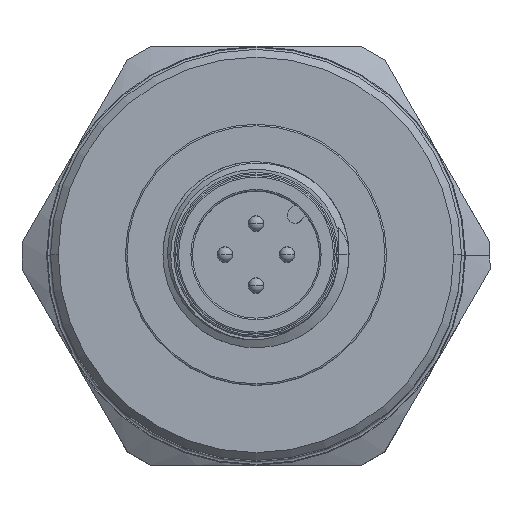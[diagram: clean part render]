
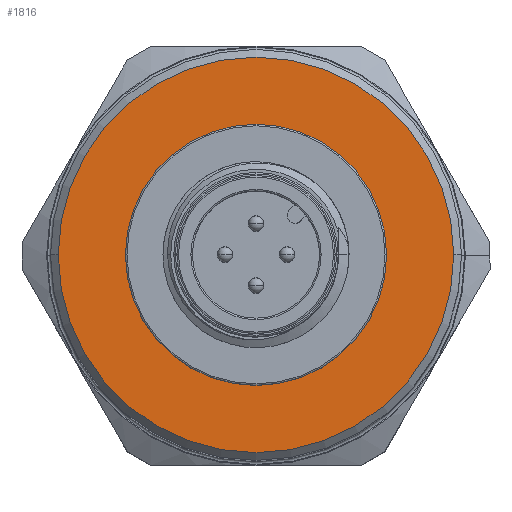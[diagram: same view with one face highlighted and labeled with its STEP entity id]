
A CAD part, top view. The second image highlights one B-rep face of the part: STEP entity #1816.
In plain terms, the highlighted planar face has unit normal (0, 0, 1).
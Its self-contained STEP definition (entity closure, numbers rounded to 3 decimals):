
#13 = FACE_BOUND ( 'NONE', #6906, .T. ) ;
#128 = PLANE ( 'NONE',  #7192 ) ;
#231 = DIRECTION ( 'NONE',  ( 0., 0., 1. ) ) ;
#994 = FACE_OUTER_BOUND ( 'NONE', #8181, .T. ) ;
#1364 = CARTESIAN_POINT ( 'NONE',  ( -12.75, 0., 45. ) ) ;
#1816 = ADVANCED_FACE ( 'NONE', ( #994, #13 ), #128, .T. ) ;
#2202 = DIRECTION ( 'NONE',  ( 0., 0., 1. ) ) ;
#2718 = DIRECTION ( 'NONE',  ( 1., 0., 0. ) ) ;
#3000 = CIRCLE ( 'NONE', #9442, 12.75 ) ;
#3119 = ORIENTED_EDGE ( 'NONE', *, *, #4336, .F. ) ;
#3566 = CARTESIAN_POINT ( 'NONE',  ( 0., 0., 45. ) ) ;
#3733 = VERTEX_POINT ( 'NONE', #6918 ) ;
#4192 = DIRECTION ( 'NONE',  ( 1., 0., 0. ) ) ;
#4336 = EDGE_CURVE ( 'NONE', #8838, #3733, #5465, .T. ) ;
#4420 = CIRCLE ( 'NONE', #4942, 12.75 ) ;
#4487 = DIRECTION ( 'NONE',  ( 1., 0., 0. ) ) ;
#4942 = AXIS2_PLACEMENT_3D ( 'NONE', #9685, #2202, #8856 ) ;
#5018 = EDGE_CURVE ( 'NONE', #3733, #8838, #6511, .T. ) ;
#5029 = VERTEX_POINT ( 'NONE', #1364 ) ;
#5218 = CARTESIAN_POINT ( 'NONE',  ( 8.42, 0., 45. ) ) ;
#5465 = CIRCLE ( 'NONE', #7038, 8.42 ) ;
#5893 = CARTESIAN_POINT ( 'NONE',  ( 0., 0., 45. ) ) ;
#6511 = CIRCLE ( 'NONE', #6689, 8.42 ) ;
#6689 = AXIS2_PLACEMENT_3D ( 'NONE', #8821, #7990, #7176 ) ;
#6708 = DIRECTION ( 'NONE',  ( 0., 0., 1. ) ) ;
#6906 = EDGE_LOOP ( 'NONE', ( #8773, #3119 ) ) ;
#6918 = CARTESIAN_POINT ( 'NONE',  ( -8.42, 0., 45. ) ) ;
#7038 = AXIS2_PLACEMENT_3D ( 'NONE', #3566, #8571, #4487 ) ;
#7176 = DIRECTION ( 'NONE',  ( 1., 0., 0. ) ) ;
#7192 = AXIS2_PLACEMENT_3D ( 'NONE', #8459, #231, #2718 ) ;
#7482 = VERTEX_POINT ( 'NONE', #7870 ) ;
#7870 = CARTESIAN_POINT ( 'NONE',  ( 12.75, 0., 45. ) ) ;
#7990 = DIRECTION ( 'NONE',  ( 0., 0., 1. ) ) ;
#8181 = EDGE_LOOP ( 'NONE', ( #8195, #8406 ) ) ;
#8195 = ORIENTED_EDGE ( 'NONE', *, *, #10482, .T. ) ;
#8406 = ORIENTED_EDGE ( 'NONE', *, *, #8797, .T. ) ;
#8459 = CARTESIAN_POINT ( 'NONE',  ( 0., 0., 45. ) ) ;
#8571 = DIRECTION ( 'NONE',  ( 0., 0., 1. ) ) ;
#8773 = ORIENTED_EDGE ( 'NONE', *, *, #5018, .F. ) ;
#8797 = EDGE_CURVE ( 'NONE', #7482, #5029, #3000, .T. ) ;
#8821 = CARTESIAN_POINT ( 'NONE',  ( 0., 0., 45. ) ) ;
#8838 = VERTEX_POINT ( 'NONE', #5218 ) ;
#8856 = DIRECTION ( 'NONE',  ( 1., 0., 0. ) ) ;
#9442 = AXIS2_PLACEMENT_3D ( 'NONE', #5893, #6708, #4192 ) ;
#9685 = CARTESIAN_POINT ( 'NONE',  ( 0., 0., 45. ) ) ;
#10482 = EDGE_CURVE ( 'NONE', #5029, #7482, #4420, .T. ) ;
